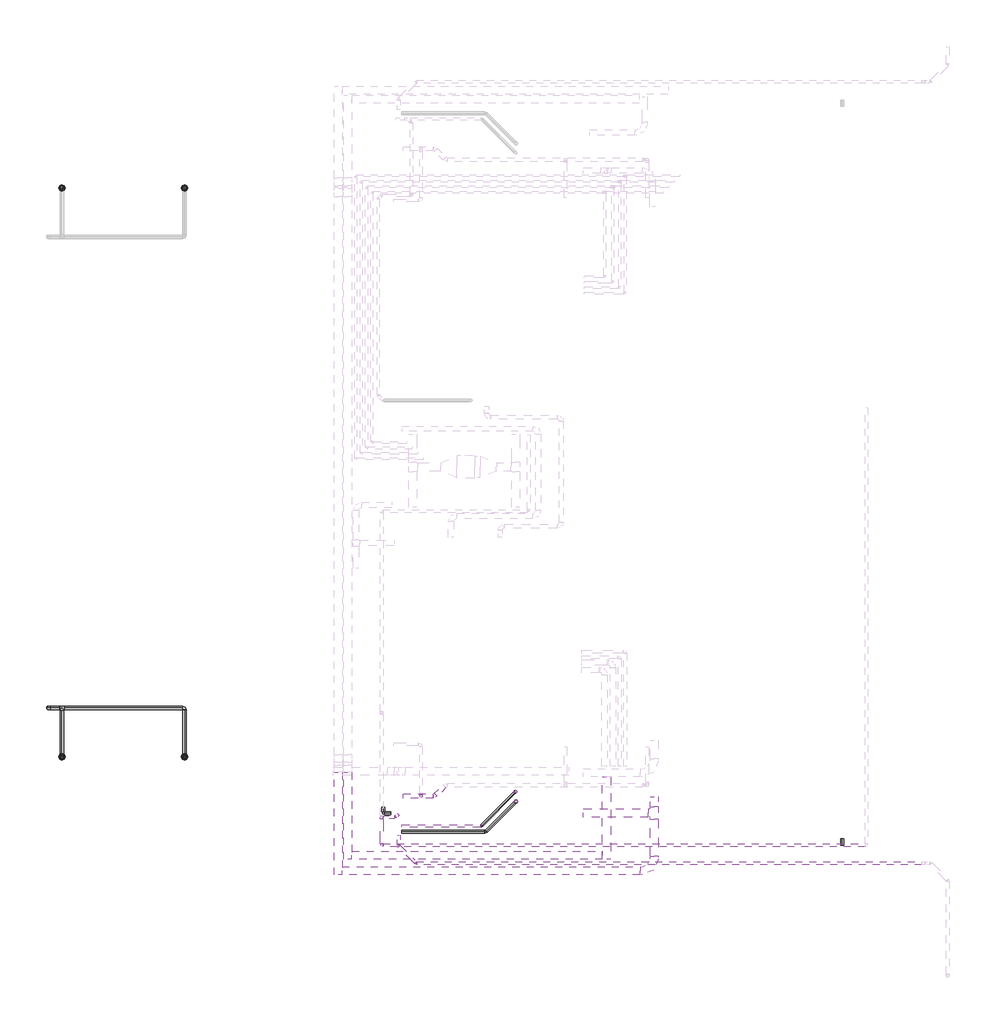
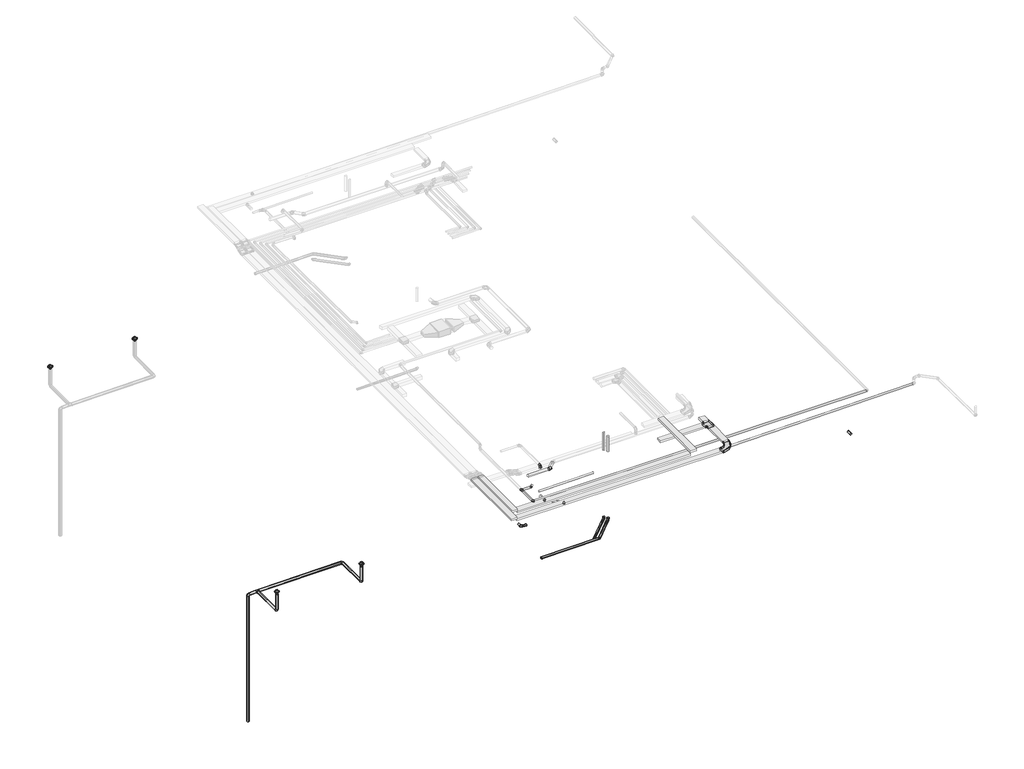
# One storey, part 1 of 5: 23 pipe segments, 17 pipe fittings, 8 cable carrier segments, 4 flow terminals, 3 duct segments, 2 cable carrier fittings, 2 duct fittings.
"""IFC4 building model written with IfcOpenShell, lengths in millimetres."""

from ifc_helpers import new_model, si_unit, point, frame, frame_2d, origin, place, context, project, spatial, polyline, circle_curve, trimmed, segment, composite_curve, outline, extrude, transform, mapped, element, save
from components import el_radio_300_mm_312ed4b1, m_codo_horizontal_de_canal_el_5b0e7b07, m_codo_redondo_ext_1_d_96ea52f9, m_codo_redondo_ext_1_d_5003ae0d, flow_terminal_39898e6f, flow_terminal_561f22d3, pipe_fitting_4aa6ec84, pipe_fitting_8e92d537, pipe_fitting_1b8f7a22, pipe_fitting_f4737d89, pipe_fitting_66147aa9, pipe_fitting_0b7fd5a4, pipe_fitting_aab77541, pipe_fitting_688cd524, pipe_fitting_d4e63a53, pipe_fitting_87aeffad, pipe_fitting_4a6b8cfe, pipe_fitting_2d09eb79

model = new_model("IFC4")

# Units and contexts
model_context = context("Model", 3, world=origin())
ifc_project = project(units=[si_unit("LENGTHUNIT", "METRE", prefix="MILLI")], contexts=[model_context])

# Site, building, storey
site = spatial("IfcSite", under=ifc_project)
building = spatial("IfcBuilding", under=site)
storey = spatial("IfcBuildingStorey", under=building, Name="Nivell 04 P04_PP", Elevation=22410.0)

# Cable carrier fittings
placement = place(None, origin())
el_radio_300_mm_shape = el_radio_300_mm_312ed4b1(model_context)
element("IfcCableCarrierFitting", 1, ObjectType="M_Te horizontal de canal : EL_Radio 300 mm", at=placement, inside=storey, context=model_context, shape_type="MappedRepresentation", body=[
    mapped(el_radio_300_mm_shape, transform((16614.6624278, -16993.7433657, 25574.0212739), x_axis=(0.0, -1.0, 0.0), y_axis=(1.0, 0.0, 0.0), z_axis=(0.0, 0.0, 1.0))),
])
m_codo_horizontal_de_canal_el_shape = m_codo_horizontal_de_canal_el_5b0e7b07(model_context)
element("IfcCableCarrierFitting", 2, ObjectType="M_Codo horizontal de canal : EL", at=placement, inside=storey, context=model_context, shape_type="MappedRepresentation", body=[
    mapped(m_codo_horizontal_de_canal_el_shape, transform((16614.6624278, -19116.2171768, 25574.0212739), x_axis=(1.0, 0.0, 0.0), y_axis=(0.0, 1.0, 0.0), z_axis=(0.0, 0.0, 1.0))),
])

# Cable carrier segments
element("IfcCableCarrierSegment", 3, ObjectType="EL", at=placement, inside=storey, context=model_context, shape_type="SweptSolid", body=[
    extrude(outline(polyline([(16464.6624278, -17219.7433657), (16764.6624278, -17219.7433657), (16764.6624278, -18591.2171768), (16464.6624278, -18591.2171768), (16464.6624278, -17219.7433657)])), frame((0.0, 0.0, 25524.0212739), z_axis=(0.0, 0.0, 1.0), x_axis=(1.0, 0.0, 0.0)), (0.0, 0.0, 1.0), 100.0),
])
element("IfcCableCarrierSegment", 4, ObjectType="EL", at=placement, inside=storey, context=model_context, shape_type="SweptSolid", body=[
    extrude(outline(polyline([(16089.6624278, -18966.2171768), (16089.6624278, -19266.2171768), (5158.2381883, -19266.2171768), (5158.2381883, -18966.2171768), (16089.6624278, -18966.2171768)])), frame((0.0, 0.0, 25524.0212739), z_axis=(0.0, 0.0, 1.0), x_axis=(1.0, 0.0, 0.0)), (0.0, 0.0, 1.0), 100.0),
])
element("IfcCableCarrierSegment", 5, ObjectType="EL", at=placement, inside=storey, context=model_context, shape_type="SweptSolid", body=[
    extrude(outline(polyline([(16464.6624278, -16393.7433657), (16764.6624278, -16393.7433657), (16764.6624278, -16767.7433657), (16464.6624278, -16767.7433657), (16464.6624278, -16393.7433657)])), frame((0.0, 0.0, 25524.0212739), z_axis=(0.0, 0.0, 1.0), x_axis=(1.0, 0.0, 0.0)), (0.0, 0.0, 1.0), 100.0),
])
element("IfcCableCarrierSegment", 6, ObjectType="EL", at=placement, inside=storey, context=model_context, shape_type="SweptSolid", body=[
    extrude(outline(polyline([(16388.6624278, -16843.7433657), (16388.6624278, -17143.7433657), (14011.0671065, -17143.7433657), (14011.0671065, -16843.7433657), (16388.6624278, -16843.7433657)])), frame((0.0, 0.0, 25524.0212739), z_axis=(0.0, 0.0, 1.0), x_axis=(1.0, 0.0, 0.0)), (0.0, 0.0, 1.0), 100.0),
])
element("IfcCableCarrierSegment", 7, ObjectType="EL", at=placement, inside=storey, context=model_context, shape_type="SweptSolid", body=[
    extrude(outline(polyline([(14707.0671065, -15671.1304394), (15007.0671065, -15671.1304394), (15007.0671065, -18700.3999814), (14707.0671065, -18700.3999814), (14707.0671065, -15671.1304394)])), frame((0.0, 0.0, 25660.0), z_axis=(0.0, 0.0, 1.0), x_axis=(1.0, 0.0, 0.0)), (0.0, 0.0, 1.0), 100.0),
])
element("IfcCableCarrierSegment", 8, ObjectType="EL", at=placement, inside=storey, context=model_context, shape_type="SweptSolid", body=[
    extrude(outline(polyline([(14707.0671065, -18400.3999814), (14707.0671065, -18700.3999814), (5507.0671065, -18700.3999814), (5507.0671065, -18400.3999814), (14707.0671065, -18400.3999814)])), frame((0.0, 0.0, 25491.5185208), z_axis=(0.0, 0.0, 1.0), x_axis=(1.0, 0.0, 0.0)), (0.0, 0.0, 1.0), 100.0),
])
element("IfcCableCarrierSegment", 9, ObjectType="EL", at=placement, inside=storey, context=model_context, shape_type="SweptSolid", body=[
    extrude(outline(polyline([(4858.2381883, -15500.01931), (5158.2381883, -15500.01931), (5158.2381883, -19266.2171768), (4858.2381883, -19266.2171768), (4858.2381883, -15500.01931)])), frame((0.0, 0.0, 25610.0), z_axis=(0.0, 0.0, 1.0), x_axis=(1.0, 0.0, 0.0)), (0.0, 0.0, 1.0), 100.0),
])
element("IfcCableCarrierSegment", 10, ObjectType="EL", at=placement, inside=storey, context=model_context, shape_type="SweptSolid", body=[
    extrude(outline(polyline([(5207.0671065, -15500.01931), (5507.0671065, -15500.01931), (5507.0671065, -18700.3999814), (5207.0671065, -18700.3999814), (5207.0671065, -15500.01931)])), frame((0.0, 0.0, 25610.0), z_axis=(0.0, 0.0, 1.0), x_axis=(1.0, 0.0, 0.0)), (0.0, 0.0, 1.0), 100.0),
])

# Duct fittings
m_codo_redondo_ext_1_d_shape = m_codo_redondo_ext_1_d_96ea52f9(model_context)
element("IfcDuctFitting", 11, ObjectType="M_Codo redondo : EXT_1 D", at=placement, inside=storey, context=model_context, shape_type="MappedRepresentation", body=[
    mapped(m_codo_redondo_ext_1_d_shape, transform((8050.5896993, -16369.0292533, 25860.0), x_axis=(0.0, -1.0, 0.0), y_axis=(0.0, 0.0, 1.0), z_axis=(-1.0, 0.0, 0.0))),
])
m_codo_redondo_ext_1_d_2_shape = m_codo_redondo_ext_1_d_5003ae0d(model_context)
element("IfcDuctFitting", 12, ObjectType="M_Codo redondo : EXT_1 D", at=placement, inside=storey, context=model_context, shape_type="MappedRepresentation", body=[
    mapped(m_codo_redondo_ext_1_d_2_shape, transform((8550.5886625, -16372.972987, 25515.0), x_axis=(-0.7071067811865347, -0.7071067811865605, 0.0), y_axis=(0.7071067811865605, -0.7071067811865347, 0.0), z_axis=(0.0, 0.0, 1.0))),
])

# Duct segments
element("IfcDuctSegment", 13, ObjectType="EXT_Acer Galvanitzat - Rígid", at=placement, inside=storey, context=model_context, shape_type="SweptSolid", body=[
    extrude(outline(composite_curve([segment(trimmed(circle_curve(frame_2d((8050.5896993, -16369.0292533)), 50.0), [point((8000.5896993, -16369.0292533))], [point((8050.5896993, -16319.0292533))], False, "CARTESIAN"), True, "CONTINUOUS"), segment(trimmed(circle_curve(frame_2d((8050.5896993, -16369.0292533)), 50.0), [point((8050.5896993, -16319.0292533))], [point((8100.5896993, -16369.0292533))], False, "CARTESIAN"), True, "CONTINUOUS"), segment(trimmed(circle_curve(frame_2d((8050.5896993, -16369.0292533)), 50.0), [point((8100.5896993, -16369.0292533))], [point((8050.5896993, -16419.0292533))], False, "CARTESIAN"), True, "CONTINUOUS"), segment(trimmed(circle_curve(frame_2d((8050.5896993, -16369.0292533)), 50.0), [point((8050.5896993, -16419.0292533))], [point((8000.5896993, -16369.0292533))], False, "CARTESIAN"), True, "CONTINUOUS")], self_intersect=False)), frame((0.0, 0.0, 25691.6), z_axis=(0.0, 0.0, 1.0), x_axis=(1.0, 0.0, 0.0)), (0.0, 0.0, 1.0), 68.4),
])
element("IfcDuctSegment", 14, ObjectType="EXT_Acer Galvanitzat - Rígid", at=placement, inside=storey, context=model_context, shape_type="SweptSolid", body=[
    extrude(outline(composite_curve([segment(trimmed(circle_curve(frame_2d((0.0, -75.0)), 75.0), [point((-75.0, -75.0))], [point((0.0, 0.0))], False, "CARTESIAN"), True, "CONTINUOUS"), segment(trimmed(circle_curve(frame_2d((0.0, -75.0)), 75.0), [point((0.0, 0.0))], [point((75.0, -75.0))], False, "CARTESIAN"), True, "CONTINUOUS"), segment(trimmed(circle_curve(frame_2d((0.0, -75.0)), 75.0), [point((75.0, -75.0))], [point((0.0, -150.0))], False, "CARTESIAN"), True, "CONTINUOUS"), segment(trimmed(circle_curve(frame_2d((0.0, -75.0)), 75.0), [point((0.0, -150.0))], [point((-75.0, -75.0))], False, "CARTESIAN"), True, "CONTINUOUS")], self_intersect=False)), frame((8594.5226453, -16329.0390042, 25440.0), z_axis=(0.7071067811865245, 0.7071067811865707, 0.0), x_axis=(0.7071067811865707, -0.7071067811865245, 0.0)), (0.0, 0.0, 1.0), 441.4228225),
])
element("IfcDuctSegment", 15, ObjectType="EXT_Acer Galvanitzat - Rígid", at=placement, inside=storey, context=model_context, shape_type="SweptSolid", body=[
    extrude(outline(composite_curve([segment(trimmed(circle_curve(frame_2d((-16372.972987, 25515.0)), 75.0), [point((-16297.972987, 25515.0))], [point((-16372.972987, 25440.0))], False, "CARTESIAN"), True, "CONTINUOUS"), segment(trimmed(circle_curve(frame_2d((-16372.972987, 25515.0)), 75.0), [point((-16372.972987, 25440.0))], [point((-16447.972987, 25515.0))], False, "CARTESIAN"), True, "CONTINUOUS"), segment(trimmed(circle_curve(frame_2d((-16372.972987, 25515.0)), 75.0), [point((-16447.972987, 25515.0))], [point((-16372.972987, 25590.0))], False, "CARTESIAN"), True, "CONTINUOUS"), segment(trimmed(circle_curve(frame_2d((-16372.972987, 25515.0)), 75.0), [point((-16372.972987, 25590.0))], [point((-16297.972987, 25515.0))], False, "CARTESIAN"), True, "CONTINUOUS")], self_intersect=False)), frame((7390.5886625, 0.0, 0.0), z_axis=(1.0, 0.0, 0.0), x_axis=(0.0, 1.0, 0.0)), (0.0, 0.0, 1.0), 1097.8679656),
])

# Flow terminals
flow_terminal_shape = flow_terminal_39898e6f(model_context)
element("IfcFlowTerminal", 16, ObjectType="ARC_PF_desaigua coberta : Diámetro salida 70mm", at=placement, inside=storey, context=model_context, shape_type="MappedRepresentation", body=[
    mapped(flow_terminal_shape, transform((-5135.1220364, 5951.8267074, 22408.0), x_axis=(1.0, 0.0, 0.0), y_axis=(0.0, 1.0, 0.0), z_axis=(0.0, 0.0, 1.0))),
])
element("IfcFlowTerminal", 17, ObjectType="ARC_PF_desaigua coberta : Diámetro salida 70mm", at=placement, inside=storey, context=model_context, shape_type="MappedRepresentation", body=[
    mapped(flow_terminal_shape, transform((-635.5719914, 5951.8267074, 22408.0), x_axis=(1.0, 0.0, 0.0), y_axis=(0.0, 1.0, 0.0), z_axis=(0.0, 0.0, 1.0))),
])
flow_terminal_2_shape = flow_terminal_561f22d3(model_context)
element("IfcFlowTerminal", 18, ObjectType="ARC_PF_desaigua coberta : Diámetro salida 70mm", at=placement, inside=storey, context=model_context, shape_type="MappedRepresentation", body=[
    mapped(flow_terminal_2_shape, transform((-5135.1220364, -14932.5786875, 22408.0), x_axis=(1.0, 0.0, 0.0), y_axis=(0.0, 1.0, 0.0), z_axis=(0.0, 0.0, 1.0))),
])
element("IfcFlowTerminal", 19, ObjectType="ARC_PF_desaigua coberta : Diámetro salida 70mm", at=placement, inside=storey, context=model_context, shape_type="MappedRepresentation", body=[
    mapped(flow_terminal_2_shape, transform((-635.5719914, -14932.5786875, 22408.0), x_axis=(1.0, 0.0, 0.0), y_axis=(0.0, 1.0, 0.0), z_axis=(0.0, 0.0, 1.0))),
])

# Pipe fittings
pipe_fitting_shape = pipe_fitting_4aa6ec84(model_context)
element("IfcPipeFitting", 20, ObjectType="M_Transición - Genérica : Estándar", at=placement, inside=storey, context=model_context, shape_type="MappedRepresentation", body=[
    mapped(pipe_fitting_shape, transform((-5135.1220364, -14932.5786875, 22408.0), x_axis=(0.0, 0.0, -1.0), y_axis=(1.0, 0.0, 0.0), z_axis=(0.0, -1.0, 0.0))),
])
element("IfcPipeFitting", 21, ObjectType="M_Transición - Genérica : Estándar", at=placement, inside=storey, context=model_context, shape_type="MappedRepresentation", body=[
    mapped(pipe_fitting_shape, transform((-635.5719914, -14932.5786875, 22408.0), x_axis=(0.0, 0.0, -1.0), y_axis=(1.0, 0.0, 0.0), z_axis=(0.0, -1.0, 0.0))),
])
pipe_fitting_2_shape = pipe_fitting_8e92d537(model_context)
element("IfcPipeFitting", 22, ObjectType="M_Codo - Genérico : Estándar", at=placement, inside=storey, context=model_context, shape_type="MappedRepresentation", body=[
    mapped(pipe_fitting_2_shape, transform((-5635.5719914, -13136.5782875, 21442.039996), x_axis=(-0.9999500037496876, 0.0, -0.009999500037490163), y_axis=(0.009999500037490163, 0.0, -0.9999500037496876), z_axis=(0.0, -1.0, 0.0))),
])
pipe_fitting_3_shape = pipe_fitting_1b8f7a22(model_context)
element("IfcPipeFitting", 23, ObjectType="M_Codo - Genérico : Estándar", at=placement, inside=storey, context=model_context, shape_type="MappedRepresentation", body=[
    mapped(pipe_fitting_3_shape, transform((-5135.1220364, -14932.5786875, 21465.0044996), x_axis=(0.0, 0.0, -1.0), y_axis=(0.0, -1.0, 0.0), z_axis=(-1.0, 0.0, 0.0))),
])
element("IfcPipeFitting", 24, ObjectType="M_Codo - Genérico : Estándar", at=placement, inside=storey, context=model_context, shape_type="MappedRepresentation", body=[
    mapped(pipe_fitting_3_shape, transform((-635.5719914, -14932.5786875, 21510.0), x_axis=(0.0, 0.0, -1.0), y_axis=(0.0, -1.0, 0.0), z_axis=(-1.0, 0.0, 0.0))),
])
pipe_fitting_4_shape = pipe_fitting_f4737d89(model_context)
element("IfcPipeFitting", 25, ObjectType="M_Codo - Genérico : Estándar", at=placement, inside=storey, context=model_context, shape_type="MappedRepresentation", body=[
    mapped(pipe_fitting_4_shape, transform((-635.5719914, -13136.5782875, 21492.039996), x_axis=(0.9999500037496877, 0.0, 0.009999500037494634), y_axis=(9.998500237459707e-05, 0.999950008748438, -0.00999850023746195), z_axis=(-0.009999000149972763, 0.00999900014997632, 0.9999000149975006))),
])
pipe_fitting_5_shape = pipe_fitting_66147aa9(model_context)
element("IfcPipeFitting", 26, ObjectType="M_Te - Genérica : Estándar", at=placement, inside=storey, context=model_context, shape_type="MappedRepresentation", body=[
    mapped(pipe_fitting_5_shape, transform((-5135.1220364, -13136.5782875, 21447.0444956), x_axis=(0.9999500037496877, 0.0, 0.009999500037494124), y_axis=(-9.998500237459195e-05, -0.999950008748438, 0.00999850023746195), z_axis=(0.009999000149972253, -0.00999900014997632, -0.9999000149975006))),
])
pipe_fitting_6_shape = pipe_fitting_0b7fd5a4(model_context)
element("IfcPipeFitting", 27, ObjectType="M_Codo - Genérico : Estándar", at=placement, inside=storey, context=model_context, shape_type="MappedRepresentation", body=[
    mapped(pipe_fitting_6_shape, transform((10418.5757792, -17686.9795368, 21744.2175715), x_axis=(0.9999500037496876, 0.0, 0.009999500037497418), y_axis=(-4.141685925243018e-05, 0.9999914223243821, 0.004141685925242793), z_axis=(-0.009999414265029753, -0.004141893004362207, 0.9999414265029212))),
])
element("IfcPipeFitting", 28, ObjectType="M_Codo - Genérico : Estándar", at=placement, inside=storey, context=model_context, shape_type="MappedRepresentation", body=[
    mapped(pipe_fitting_6_shape, transform((7870.0068596, -18840.3956727, 25326.0671248), x_axis=(0.7070714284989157, -0.7070714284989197, 0.009999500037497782), y_axis=(0.7070714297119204, 0.7071300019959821, 0.004141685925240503), z_axis=(-0.009999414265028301, 0.004141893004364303, 0.9999414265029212))),
])
element("IfcPipeFitting", 29, ObjectType="M_Codo - Genérico : Estándar", at=placement, inside=storey, context=model_context, shape_type="MappedRepresentation", body=[
    mapped(pipe_fitting_6_shape, transform((7222.8096734, -18193.1973994, 25316.9143667), x_axis=(0.0, -0.9999500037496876, 0.009999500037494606), y_axis=(0.9999914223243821, 4.141685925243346e-05, 0.004141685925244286), z_axis=(-0.004141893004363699, 0.009999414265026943, 0.9999414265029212))),
])
pipe_fitting_7_shape = pipe_fitting_aab77541(model_context)
element("IfcPipeFitting", 30, ObjectType="M_Codo - Genérico : Estándar", at=placement, inside=storey, context=model_context, shape_type="MappedRepresentation", body=[
    mapped(pipe_fitting_7_shape, transform((11534.5619983, -16570.9933177, 21760.0), x_axis=(0.7070714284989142, 0.7070714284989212, 0.00999950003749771), y_axis=(-0.007070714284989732, -0.007070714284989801, 0.9999500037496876), z_axis=(0.707106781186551, -0.707106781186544, 0.0))),
])
pipe_fitting_8_shape = pipe_fitting_688cd524(model_context)
element("IfcPipeFitting", 31, ObjectType="M_Codo - Genérico : Estándar", at=placement, inside=storey, context=model_context, shape_type="MappedRepresentation", body=[
    mapped(pipe_fitting_8_shape, transform((11520.8342792, -16208.2069022, 21619.1205236), x_axis=(0.7070714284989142, 0.7070714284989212, 0.00999950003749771), y_axis=(-0.007070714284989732, -0.007070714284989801, 0.9999500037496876), z_axis=(0.707106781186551, -0.707106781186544, 0.0))),
])
pipe_fitting_9_shape = pipe_fitting_d4e63a53(model_context)
element("IfcPipeFitting", 32, ObjectType="M_Codo - Genérico : Estándar", at=placement, inside=storey, context=model_context, shape_type="MappedRepresentation", body=[
    mapped(pipe_fitting_9_shape, transform((10258.5698208, -17470.4705374, 21601.2694142), x_axis=(0.9999500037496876, 0.0, 0.009999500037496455), y_axis=(-4.141528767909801e-05, 0.9999914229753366, 0.0041415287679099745), z_axis=(-0.00999941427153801, -0.004141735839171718, 0.9999414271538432))),
])
pipe_fitting_10_shape = pipe_fitting_87aeffad(model_context)
element("IfcPipeFitting", 33, ObjectType="M_Codo - Genérico : Estándar", at=placement, inside=storey, context=model_context, shape_type="MappedRepresentation", body=[
    mapped(pipe_fitting_10_shape, transform((6656.4795907, -17006.4845942, 23310.0), x_axis=(0.0, -1.0, 0.0), y_axis=(1.0, 0.0, 0.0), z_axis=(0.0, 0.0, 1.0))),
])
element("IfcPipeFitting", 34, ObjectType="M_Codo - Genérico : Estándar", at=placement, inside=storey, context=model_context, shape_type="MappedRepresentation", body=[
    mapped(pipe_fitting_10_shape, transform((6603.8941113, -18181.6106458, 25459.2), x_axis=(0.0, -1.0, 0.0), y_axis=(1.0, 0.0, 0.0), z_axis=(0.0, 0.0, 1.0))),
])
pipe_fitting_11_shape = pipe_fitting_4a6b8cfe(model_context)
element("IfcPipeFitting", 35, ObjectType="M_Codo - Genérico : Estándar", at=placement, inside=storey, context=model_context, shape_type="MappedRepresentation", body=[
    mapped(pipe_fitting_11_shape, transform((7103.8941113, -17152.8731458, 25459.2), x_axis=(1.0, 0.0, 0.0), y_axis=(0.0, 1.0, 0.0), z_axis=(0.0, 0.0, 1.0))),
])
pipe_fitting_12_shape = pipe_fitting_2d09eb79(model_context)
element("IfcPipeFitting", 36, ObjectType="M_Te - Genérica : Estándar", at=placement, inside=storey, context=model_context, shape_type="MappedRepresentation", body=[
    mapped(pipe_fitting_12_shape, transform((6603.8941113, -17152.8731458, 25459.2), x_axis=(0.0, -1.0, 0.0), y_axis=(-1.0, 0.0, 0.0), z_axis=(0.0, 0.0, -1.0))),
])

# Pipe segments
element("IfcPipeSegment", 37, ObjectType="PVC_Baixant", at=placement, inside=storey, context=model_context, shape_type="SweptSolid", body=[
    extrude(outline(composite_curve([segment(trimmed(circle_curve(frame_2d((0.0, -62.5)), 62.5), [point((62.5, -62.5))], [point((0.0, -125.0))], False, "CARTESIAN"), True, "CONTINUOUS"), segment(trimmed(circle_curve(frame_2d((0.0, -62.5)), 62.5), [point((0.0, -125.0))], [point((-62.5, -62.5))], False, "CARTESIAN"), True, "CONTINUOUS"), segment(trimmed(circle_curve(frame_2d((0.0, -62.5)), 62.5), [point((-62.5, -62.5))], [point((0.0, 0.0))], False, "CARTESIAN"), True, "CONTINUOUS"), segment(trimmed(circle_curve(frame_2d((0.0, -62.5)), 62.5), [point((0.0, 0.0))], [point((62.5, -62.5))], False, "CARTESIAN"), True, "CONTINUOUS")], self_intersect=False)), frame((-5135.1220364, -13213.7369297, 21510.3192069), z_axis=(0.0, -0.9999500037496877, 0.009999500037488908), x_axis=(1.0, 0.0, 0.0)), (0.0, 0.0, 1.0), 1647.5760009),
])
element("IfcPipeSegment", 38, ObjectType="PVC_Baixant", at=placement, inside=storey, context=model_context, shape_type="SweptSolid", body=[
    extrude(outline(composite_curve([segment(trimmed(circle_curve(frame_2d((-5135.1220364, -14932.5786875)), 62.5), [point((-5072.6220364, -14932.5786875))], [point((-5135.1220364, -14995.0786875))], False, "CARTESIAN"), True, "CONTINUOUS"), segment(trimmed(circle_curve(frame_2d((-5135.1220364, -14932.5786875)), 62.5), [point((-5135.1220364, -14995.0786875))], [point((-5197.6220364, -14932.5786875))], False, "CARTESIAN"), True, "CONTINUOUS"), segment(trimmed(circle_curve(frame_2d((-5135.1220364, -14932.5786875)), 62.5), [point((-5197.6220364, -14932.5786875))], [point((-5135.1220364, -14870.0786875))], False, "CARTESIAN"), True, "CONTINUOUS"), segment(trimmed(circle_curve(frame_2d((-5135.1220364, -14932.5786875)), 62.5), [point((-5135.1220364, -14870.0786875))], [point((-5072.6220364, -14932.5786875))], False, "CARTESIAN"), True, "CONTINUOUS")], self_intersect=False)), frame((0.0, 0.0, 21535.7311963), z_axis=(0.0, 0.0, 1.0), x_axis=(1.0, 0.0, 0.0)), (0.0, 0.0, 1.0), 839.7250537),
])
element("IfcPipeSegment", 39, ObjectType="PVC_Baixant", at=placement, inside=storey, context=model_context, shape_type="SweptSolid", body=[
    extrude(outline(composite_curve([segment(trimmed(circle_curve(frame_2d((0.0, -62.5)), 62.5), [point((0.0, 0.0))], [point((62.5, -62.5))], False, "CARTESIAN"), True, "CONTINUOUS"), segment(trimmed(circle_curve(frame_2d((0.0, -62.5)), 62.5), [point((62.5, -62.5))], [point((0.0, -125.0))], False, "CARTESIAN"), True, "CONTINUOUS"), segment(trimmed(circle_curve(frame_2d((0.0, -62.5)), 62.5), [point((0.0, -125.0))], [point((-62.5, -62.5))], False, "CARTESIAN"), True, "CONTINUOUS"), segment(trimmed(circle_curve(frame_2d((0.0, -62.5)), 62.5), [point((-62.5, -62.5))], [point((0.0, 0.0))], False, "CARTESIAN"), True, "CONTINUOUS")], self_intersect=False)), frame((-5564.8488307, -13074.0782875, 21442.7472276), z_axis=(0.9999500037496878, 0.0, 0.00999950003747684), x_axis=(0.00999950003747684, 0.0, -0.9999500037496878)), (0.0, 0.0, 1.0), 351.9607801),
])
element("IfcPipeSegment", 40, ObjectType="PVC_Baixant", at=placement, inside=storey, context=model_context, shape_type="SweptSolid", body=[
    extrude(outline(composite_curve([segment(trimmed(circle_curve(frame_2d((-5635.5719914, -13136.5782875)), 62.5), [point((-5698.0719914, -13136.5782875))], [point((-5635.5719914, -13074.0782875))], False, "CARTESIAN"), True, "CONTINUOUS"), segment(trimmed(circle_curve(frame_2d((-5635.5719914, -13136.5782875)), 62.5), [point((-5635.5719914, -13074.0782875))], [point((-5573.0719914, -13136.5782875))], False, "CARTESIAN"), True, "CONTINUOUS"), segment(trimmed(circle_curve(frame_2d((-5635.5719914, -13136.5782875)), 62.5), [point((-5573.0719914, -13136.5782875))], [point((-5635.5719914, -13199.0782875))], False, "CARTESIAN"), True, "CONTINUOUS"), segment(trimmed(circle_curve(frame_2d((-5635.5719914, -13136.5782875)), 62.5), [point((-5635.5719914, -13199.0782875))], [point((-5698.0719914, -13136.5782875))], False, "CARTESIAN"), True, "CONTINUOUS")], self_intersect=False)), frame((0.0, 0.0, 14323.8570492), z_axis=(0.0, 0.0, 1.0), x_axis=(1.0, 0.0, 0.0)), (0.0, 0.0, 1.0), 7047.45625),
])
element("IfcPipeSegment", 41, ObjectType="PVC_Baixant", at=placement, inside=storey, context=model_context, shape_type="SweptSolid", body=[
    extrude(outline(composite_curve([segment(trimmed(circle_curve(frame_2d((0.0, -62.5)), 62.5), [point((62.5, -62.5))], [point((0.0, -125.0))], False, "CARTESIAN"), True, "CONTINUOUS"), segment(trimmed(circle_curve(frame_2d((0.0, -62.5)), 62.5), [point((0.0, -125.0))], [point((-62.5, -62.5))], False, "CARTESIAN"), True, "CONTINUOUS"), segment(trimmed(circle_curve(frame_2d((0.0, -62.5)), 62.5), [point((-62.5, -62.5))], [point((0.0, 0.0))], False, "CARTESIAN"), True, "CONTINUOUS"), segment(trimmed(circle_curve(frame_2d((0.0, -62.5)), 62.5), [point((0.0, 0.0))], [point((62.5, -62.5))], False, "CARTESIAN"), True, "CONTINUOUS")], self_intersect=False)), frame((-635.5719914, -13207.3801048, 21555.2511391), z_axis=(0.0, -0.9999500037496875, 0.00999950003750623), x_axis=(1.0, 0.0, 0.0)), (0.0, 0.0, 1.0), 1653.9331436),
])
element("IfcPipeSegment", 42, ObjectType="PVC_Baixant", at=placement, inside=storey, context=model_context, shape_type="SweptSolid", body=[
    extrude(outline(composite_curve([segment(trimmed(circle_curve(frame_2d((-635.5719914, -14932.5786875)), 62.5), [point((-573.0719914, -14932.5786875))], [point((-635.5719914, -14995.0786875))], False, "CARTESIAN"), True, "CONTINUOUS"), segment(trimmed(circle_curve(frame_2d((-635.5719914, -14932.5786875)), 62.5), [point((-635.5719914, -14995.0786875))], [point((-698.0719914, -14932.5786875))], False, "CARTESIAN"), True, "CONTINUOUS"), segment(trimmed(circle_curve(frame_2d((-635.5719914, -14932.5786875)), 62.5), [point((-698.0719914, -14932.5786875))], [point((-635.5719914, -14870.0786875))], False, "CARTESIAN"), True, "CONTINUOUS"), segment(trimmed(circle_curve(frame_2d((-635.5719914, -14932.5786875)), 62.5), [point((-635.5719914, -14870.0786875))], [point((-573.0719914, -14932.5786875))], False, "CARTESIAN"), True, "CONTINUOUS")], self_intersect=False)), frame((0.0, 0.0, 21580.7266968), z_axis=(0.0, 0.0, 1.0), x_axis=(1.0, 0.0, 0.0)), (0.0, 0.0, 1.0), 794.7295532),
])
element("IfcPipeSegment", 43, ObjectType="PVC_Baixant", at=placement, inside=storey, context=model_context, shape_type="SweptSolid", body=[
    extrude(outline(composite_curve([segment(trimmed(circle_curve(frame_2d((0.0, -62.5)), 62.5), [point((0.0, 0.0))], [point((62.5000001, -62.5))], False, "CARTESIAN"), True, "CONTINUOUS"), segment(trimmed(circle_curve(frame_2d((0.0, -62.5)), 62.5), [point((62.5000001, -62.5))], [point((0.0, -125.0))], False, "CARTESIAN"), True, "CONTINUOUS"), segment(trimmed(circle_curve(frame_2d((0.0, -62.5)), 62.5), [point((0.0, -125.0))], [point((-62.5, -62.5))], False, "CARTESIAN"), True, "CONTINUOUS"), segment(trimmed(circle_curve(frame_2d((0.0, -62.5)), 62.5), [point((-62.5, -62.5))], [point((0.0, 0.0))], False, "CARTESIAN"), True, "CONTINUOUS")], self_intersect=False)), frame((-5057.3384255, -13074.0782875, 21447.8223317), z_axis=(0.9999500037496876, 0.0, 0.009999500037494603), x_axis=(0.009999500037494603, 0.0, -0.9999500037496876)), (0.0, 0.0, 1.0), 4350.5571596),
])
element("IfcPipeSegment", 44, ObjectType="PVC_Baixant", at=placement, inside=storey, context=model_context, shape_type="SweptSolid", body=[
    extrude(outline(composite_curve([segment(trimmed(circle_curve(frame_2d((0.0, -55.0)), 55.0), [point((-54.9972505, -54.450055))], [point((0.549945, -0.0027495))], False, "CARTESIAN"), True, "CONTINUOUS"), segment(trimmed(circle_curve(frame_2d((0.0, -55.0)), 55.0), [point((0.549945, -0.0027495))], [point((54.9972505, -55.549945))], False, "CARTESIAN"), True, "CONTINUOUS"), segment(trimmed(circle_curve(frame_2d((0.0, -55.0)), 55.0), [point((54.9972505, -55.549945))], [point((-0.549945, -109.9972505))], False, "CARTESIAN"), True, "CONTINUOUS"), segment(trimmed(circle_curve(frame_2d((0.0, -55.0)), 55.0), [point((-0.549945, -109.9972505))], [point((-54.9972505, -54.450055))], False, "CARTESIAN"), True, "CONTINUOUS")], self_intersect=False)), frame((10437.0077448, -17667.7698315, 21689.4837381), z_axis=(0.7070714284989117, 0.7070714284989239, 0.009999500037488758), x_axis=(0.70714213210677, -0.7070007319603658, -0.009998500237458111)), (0.0, 0.0, 1.0), 1489.9424458),
])
element("IfcPipeSegment", 45, ObjectType="PVC_Baixant", at=placement, inside=storey, context=model_context, shape_type="SweptSolid", body=[
    extrude(outline(composite_curve([segment(trimmed(circle_curve(frame_2d((0.0, -55.0)), 55.0), [point((0.0, 0.0))], [point((55.0, -55.0))], False, "CARTESIAN"), True, "CONTINUOUS"), segment(trimmed(circle_curve(frame_2d((0.0, -55.0)), 55.0), [point((55.0, -55.0))], [point((0.0, -110.0))], False, "CARTESIAN"), True, "CONTINUOUS"), segment(trimmed(circle_curve(frame_2d((0.0, -55.0)), 55.0), [point((0.0, -110.0))], [point((-55.0, -55.0))], False, "CARTESIAN"), True, "CONTINUOUS"), segment(trimmed(circle_curve(frame_2d((0.0, -55.0)), 55.0), [point((-55.0, -55.0))], [point((0.0, 0.0))], False, "CARTESIAN"), True, "CONTINUOUS")], self_intersect=False)), frame((7340.3329326, -17631.9795368, 21713.4351431), z_axis=(0.9999500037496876, 0.0, 0.009999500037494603), x_axis=(0.009999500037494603, 0.0, -0.9999500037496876)), (0.0, 0.0, 1.0), 3052.3287157),
])
element("IfcPipeSegment", 46, ObjectType="PVC_Baixant", at=placement, inside=storey, context=model_context, shape_type="SweptSolid", body=[
    extrude(outline(composite_curve([segment(trimmed(circle_curve(frame_2d((0.0, -45.0)), 45.0), [point((-44.9977504, -44.550045))], [point((0.449955, -0.0022496))], False, "CARTESIAN"), True, "CONTINUOUS"), segment(trimmed(circle_curve(frame_2d((0.0, -45.0)), 45.0), [point((0.449955, -0.0022496))], [point((44.9977503, -45.449955))], False, "CARTESIAN"), True, "CONTINUOUS"), segment(trimmed(circle_curve(frame_2d((0.0, -45.0)), 45.0), [point((44.9977503, -45.449955))], [point((-0.4499551, -89.9977503))], False, "CARTESIAN"), True, "CONTINUOUS"), segment(trimmed(circle_curve(frame_2d((0.0, -45.0)), 45.0), [point((-0.4499551, -89.9977503))], [point((-44.9977504, -44.550045))], False, "CARTESIAN"), True, "CONTINUOUS")], self_intersect=False)), frame((10273.911928, -17454.492921, 21556.4908779), z_axis=(0.7070714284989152, 0.7070714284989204, 0.009999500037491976), x_axis=(0.7071421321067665, -0.7070007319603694, -0.009998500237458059)), (0.0, 0.0, 1.0), 1711.6364246),
])
element("IfcPipeSegment", 47, ObjectType="PVC_Baixant", at=placement, inside=storey, context=model_context, shape_type="SweptSolid", body=[
    extrude(outline(composite_curve([segment(trimmed(circle_curve(frame_2d((11534.5619983, -16570.9933177)), 55.0), [point((11479.5619983, -16570.9933177))], [point((11534.5619983, -16515.9933177))], False, "CARTESIAN"), True, "CONTINUOUS"), segment(trimmed(circle_curve(frame_2d((11534.5619983, -16570.9933177)), 55.0), [point((11534.5619983, -16515.9933177))], [point((11589.5619983, -16570.9933177))], False, "CARTESIAN"), True, "CONTINUOUS"), segment(trimmed(circle_curve(frame_2d((11534.5619983, -16570.9933177)), 55.0), [point((11589.5619983, -16570.9933177))], [point((11534.5619983, -16625.9933177))], False, "CARTESIAN"), True, "CONTINUOUS"), segment(trimmed(circle_curve(frame_2d((11534.5619983, -16570.9933177)), 55.0), [point((11534.5619983, -16625.9933177))], [point((11479.5619983, -16570.9933177))], False, "CARTESIAN"), True, "CONTINUOUS")], self_intersect=False)), frame((0.0, 0.0, 25572.3112718), z_axis=(0.0, 0.0, 1.0), x_axis=(1.0, 0.0, 0.0)), (0.0, 0.0, 1.0), 837.6887282),
])
element("IfcPipeSegment", 48, ObjectType="PVC_Baixant", at=placement, inside=storey, context=model_context, shape_type="SweptSolid", body=[
    extrude(outline(composite_curve([segment(trimmed(circle_curve(frame_2d((0.0, 45.0)), 45.0), [point((-45.0, 45.0))], [point((0.0, 90.0))], False, "CARTESIAN"), True, "CONTINUOUS"), segment(trimmed(circle_curve(frame_2d((0.0, 45.0)), 45.0), [point((0.0, 90.0))], [point((45.0, 45.0))], False, "CARTESIAN"), True, "CONTINUOUS"), segment(trimmed(circle_curve(frame_2d((0.0, 45.0)), 45.0), [point((45.0, 45.0))], [point((0.0, 0.0))], False, "CARTESIAN"), True, "CONTINUOUS"), segment(trimmed(circle_curve(frame_2d((0.0, 45.0)), 45.0), [point((0.0, 0.0))], [point((-45.0, 45.0))], False, "CARTESIAN"), True, "CONTINUOUS")], self_intersect=False)), frame((11520.8342792, -16253.2069022, 25420.9866789), z_axis=(2.535683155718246e-05, -1.9776222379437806e-06, 0.9999999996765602), x_axis=(0.9999999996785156, 5.01430008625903e-11, -2.535683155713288e-05)), (0.0, 0.0, 1.0), 989.013222),
])
element("IfcPipeSegment", 49, ObjectType="PVC_Baixant", at=placement, inside=storey, context=model_context, shape_type="SweptSolid", body=[
    extrude(outline(composite_curve([segment(trimmed(circle_curve(frame_2d((0.0, -45.0)), 45.0), [point((0.0, 0.0))], [point((44.9999999, -45.0))], False, "CARTESIAN"), True, "CONTINUOUS"), segment(trimmed(circle_curve(frame_2d((0.0, -45.0)), 45.0), [point((44.9999999, -45.0))], [point((0.0, -90.0))], False, "CARTESIAN"), True, "CONTINUOUS"), segment(trimmed(circle_curve(frame_2d((0.0, -45.0)), 45.0), [point((0.0, -90.0))], [point((-45.0, -45.0))], False, "CARTESIAN"), True, "CONTINUOUS"), segment(trimmed(circle_curve(frame_2d((0.0, -45.0)), 45.0), [point((-45.0, -45.0))], [point((0.0, 0.0))], False, "CARTESIAN"), True, "CONTINUOUS")], self_intersect=False)), frame((7341.7462723, -17425.4705374, 25322.1011787), z_axis=(0.9999500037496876, 0.0, 0.009999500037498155), x_axis=(0.009999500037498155, 0.0, -0.9999500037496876)), (0.0, 0.0, 1.0), 2895.2718674),
])
element("IfcPipeSegment", 50, ObjectType="PVC_Baixant", at=placement, inside=storey, context=model_context, shape_type="SweptSolid", body=[
    extrude(outline(composite_curve([segment(trimmed(circle_curve(frame_2d((0.0, -55.0)), 55.0), [point((0.0, 0.0))], [point((55.0, -55.0))], False, "CARTESIAN"), True, "CONTINUOUS"), segment(trimmed(circle_curve(frame_2d((0.0, -55.0)), 55.0), [point((55.0, -55.0))], [point((0.0, -110.0))], False, "CARTESIAN"), True, "CONTINUOUS"), segment(trimmed(circle_curve(frame_2d((0.0, -55.0)), 55.0), [point((0.0, -110.0))], [point((-55.0, -55.0))], False, "CARTESIAN"), True, "CONTINUOUS"), segment(trimmed(circle_curve(frame_2d((0.0, -55.0)), 55.0), [point((-55.0, -55.0))], [point((0.0, 0.0))], False, "CARTESIAN"), True, "CONTINUOUS")], self_intersect=False)), frame((7896.0735954, -18785.3956727, 25326.3277921), z_axis=(0.9999500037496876, 0.0, 0.009999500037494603), x_axis=(0.009999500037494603, 0.0, -0.9999500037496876)), (0.0, 0.0, 1.0), 18530.0950724),
])
element("IfcPipeSegment", 51, ObjectType="PVC_Baixant", at=placement, inside=storey, context=model_context, shape_type="SweptSolid", body=[
    extrude(outline(composite_curve([segment(trimmed(circle_curve(frame_2d((0.0, -55.0)), 55.0), [point((54.9972505, -54.4500559))], [point((0.549944, -109.9972506))], False, "CARTESIAN"), True, "CONTINUOUS"), segment(trimmed(circle_curve(frame_2d((0.0, -55.0)), 55.0), [point((0.549944, -109.9972506))], [point((-54.9972505, -55.549944))], False, "CARTESIAN"), True, "CONTINUOUS"), segment(trimmed(circle_curve(frame_2d((0.0, -55.0)), 55.0), [point((-54.9972505, -55.549944))], [point((-0.5499441, -0.0027495))], False, "CARTESIAN"), True, "CONTINUOUS"), segment(trimmed(circle_curve(frame_2d((0.0, -55.0)), 55.0), [point((-0.5499441, -0.0027495))], [point((54.9972505, -54.4500559))], False, "CARTESIAN"), True, "CONTINUOUS")], self_intersect=False)), frame((7241.2416391, -18210.851626, 25372.1695349), z_axis=(0.7070707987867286, -0.707072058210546, 0.009999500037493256), x_axis=(0.7071427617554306, 0.707000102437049, -0.009998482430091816)), (0.0, 0.0, 1.0), 863.1854914),
])
element("IfcPipeSegment", 52, ObjectType="PVC_Baixant", at=placement, inside=storey, context=model_context, shape_type="SweptSolid", body=[
    extrude(outline(composite_curve([segment(trimmed(circle_curve(frame_2d((0.0, -55.0000001)), 55.0), [point((55.0, -55.0000001))], [point((0.0, -110.0000001))], False, "CARTESIAN"), True, "CONTINUOUS"), segment(trimmed(circle_curve(frame_2d((0.0, -55.0000001)), 55.0), [point((0.0, -110.0000001))], [point((-55.0, -55.0000001))], False, "CARTESIAN"), True, "CONTINUOUS"), segment(trimmed(circle_curve(frame_2d((0.0, -55.0000001)), 55.0), [point((-55.0, -55.0000001))], [point((0.0, 0.0))], False, "CARTESIAN"), True, "CONTINUOUS"), segment(trimmed(circle_curve(frame_2d((0.0, -55.0000001)), 55.0), [point((0.0, 0.0))], [point((55.0, -55.0000001))], False, "CARTESIAN"), True, "CONTINUOUS")], self_intersect=False)), frame((7222.8096734, -17804.808102, 25368.0332237), z_axis=(0.0, -0.999950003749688, 0.009999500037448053), x_axis=(1.0, 0.0, 0.0)), (0.0, 0.0, 1.0), 361.7906773),
])
element("IfcPipeSegment", 53, ObjectType="AN_CI", at=placement, inside=storey, context=model_context, shape_type="SweptSolid", body=[
    extrude(outline(composite_curve([segment(trimmed(circle_curve(frame_2d((-17006.4845942, 23310.0)), 50.8), [point((-16955.6845942, 23310.0))], [point((-17006.4845942, 23259.2))], False, "CARTESIAN"), True, "CONTINUOUS"), segment(trimmed(circle_curve(frame_2d((-17006.4845942, 23310.0)), 50.8), [point((-17006.4845942, 23259.2))], [point((-17057.2845942, 23310.0))], False, "CARTESIAN"), True, "CONTINUOUS"), segment(trimmed(circle_curve(frame_2d((-17006.4845942, 23310.0)), 50.8), [point((-17057.2845942, 23310.0))], [point((-17006.4845942, 23360.8))], False, "CARTESIAN"), True, "CONTINUOUS"), segment(trimmed(circle_curve(frame_2d((-17006.4845942, 23310.0)), 50.8), [point((-17006.4845942, 23360.8))], [point((-16955.6845942, 23310.0))], False, "CARTESIAN"), True, "CONTINUOUS")], self_intersect=False)), frame((6708.8670907, 0.0, 0.0), z_axis=(1.0, 0.0, 0.0), x_axis=(0.0, 1.0, 0.0)), (0.0, 0.0, 1.0), 227.6125),
])
element("IfcPipeSegment", 54, ObjectType="AN_CI", at=placement, inside=storey, context=model_context, shape_type="SweptSolid", body=[
    extrude(outline(composite_curve([segment(trimmed(circle_curve(frame_2d((23310.0, 6656.4795907)), 50.8), [point((23310.0, 6707.2795907))], [point((23360.8, 6656.4795907))], False, "CARTESIAN"), True, "CONTINUOUS"), segment(trimmed(circle_curve(frame_2d((23310.0, 6656.4795907)), 50.8), [point((23360.8, 6656.4795907))], [point((23310.0, 6605.6795907))], False, "CARTESIAN"), True, "CONTINUOUS"), segment(trimmed(circle_curve(frame_2d((23310.0, 6656.4795907)), 50.8), [point((23310.0, 6605.6795907))], [point((23259.2, 6656.4795907))], False, "CARTESIAN"), True, "CONTINUOUS"), segment(trimmed(circle_curve(frame_2d((23310.0, 6656.4795907)), 50.8), [point((23259.2, 6656.4795907))], [point((23310.0, 6707.2795907))], False, "CARTESIAN"), True, "CONTINUOUS")], self_intersect=False)), frame((0.0, -16954.0970942, 0.0), z_axis=(0.0, 1.0, 0.0), x_axis=(0.0, 0.0, 1.0)), (0.0, 0.0, 1.0), 167.6125),
])
element("IfcPipeSegment", 55, ObjectType="AN_CI", at=placement, inside=storey, context=model_context, shape_type="SweptSolid", body=[
    extrude(outline(composite_curve([segment(trimmed(circle_curve(frame_2d((0.0, -50.8)), 50.8), [point((-50.8, -50.8))], [point((0.0, 0.0))], False, "CARTESIAN"), True, "CONTINUOUS"), segment(trimmed(circle_curve(frame_2d((0.0, -50.8)), 50.8), [point((0.0, 0.0))], [point((50.8, -50.8))], False, "CARTESIAN"), True, "CONTINUOUS"), segment(trimmed(circle_curve(frame_2d((0.0, -50.8)), 50.8), [point((50.8, -50.8))], [point((0.0, -101.6))], False, "CARTESIAN"), True, "CONTINUOUS"), segment(trimmed(circle_curve(frame_2d((0.0, -50.8)), 50.8), [point((0.0, -101.6))], [point((-50.8, -50.8))], False, "CARTESIAN"), True, "CONTINUOUS")], self_intersect=False)), frame((7119.2380548, -17137.5292023, 25408.4), z_axis=(0.7071067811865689, 0.7071067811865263, 0.0), x_axis=(0.7071067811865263, -0.7071067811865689, 0.0)), (0.0, 0.0, 1.0), 125.912887),
])
element("IfcPipeSegment", 56, ObjectType="AN_CI", at=placement, inside=storey, context=model_context, shape_type="SweptSolid", body=[
    extrude(outline(composite_curve([segment(trimmed(circle_curve(frame_2d((-17152.8731458, 25459.2)), 50.8), [point((-17102.0731458, 25459.2))], [point((-17152.8731458, 25408.4))], False, "CARTESIAN"), True, "CONTINUOUS"), segment(trimmed(circle_curve(frame_2d((-17152.8731458, 25459.2)), 50.8), [point((-17152.8731458, 25408.4))], [point((-17203.6731458, 25459.2))], False, "CARTESIAN"), True, "CONTINUOUS"), segment(trimmed(circle_curve(frame_2d((-17152.8731458, 25459.2)), 50.8), [point((-17203.6731458, 25459.2))], [point((-17152.8731458, 25510.0))], False, "CARTESIAN"), True, "CONTINUOUS"), segment(trimmed(circle_curve(frame_2d((-17152.8731458, 25459.2)), 50.8), [point((-17152.8731458, 25510.0))], [point((-17102.0731458, 25459.2))], False, "CARTESIAN"), True, "CONTINUOUS")], self_intersect=False)), frame((6662.6316113, 0.0, 0.0), z_axis=(1.0, 0.0, 0.0), x_axis=(0.0, 1.0, 0.0)), (0.0, 0.0, 1.0), 419.562887),
])
element("IfcPipeSegment", 57, ObjectType="AN_CI", at=placement, inside=storey, context=model_context, shape_type="SweptSolid", body=[
    extrude(outline(composite_curve([segment(trimmed(circle_curve(frame_2d((0.0, -50.8)), 50.8), [point((0.0, 0.0))], [point((50.8, -50.8))], False, "CARTESIAN"), True, "CONTINUOUS"), segment(trimmed(circle_curve(frame_2d((0.0, -50.8)), 50.8), [point((50.8, -50.8))], [point((0.0, -101.5999999))], False, "CARTESIAN"), True, "CONTINUOUS"), segment(trimmed(circle_curve(frame_2d((0.0, -50.8)), 50.8), [point((0.0, -101.5999999))], [point((-50.8, -50.8))], False, "CARTESIAN"), True, "CONTINUOUS"), segment(trimmed(circle_curve(frame_2d((0.0, -50.8)), 50.8), [point((-50.8, -50.8))], [point((0.0, 0.0))], False, "CARTESIAN"), True, "CONTINUOUS")], self_intersect=False)), frame((23464.1145716, -18170.3435948, 23310.0), z_axis=(2.0856058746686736e-05, 0.9999999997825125, 0.0), x_axis=(0.0, 0.0, -1.0)), (0.0, 0.0, 1.0), 227.6125),
])
element("IfcPipeSegment", 58, ObjectType="AN_CI", at=placement, inside=storey, context=model_context, shape_type="SweptSolid", body=[
    extrude(outline(composite_curve([segment(trimmed(circle_curve(frame_2d((25459.2, 6603.8941113)), 50.8), [point((25459.2, 6553.0941113))], [point((25408.4, 6603.8941113))], False, "CARTESIAN"), True, "CONTINUOUS"), segment(trimmed(circle_curve(frame_2d((25459.2, 6603.8941113)), 50.8), [point((25408.4, 6603.8941113))], [point((25459.2, 6654.6941113))], False, "CARTESIAN"), True, "CONTINUOUS"), segment(trimmed(circle_curve(frame_2d((25459.2, 6603.8941113)), 50.8), [point((25459.2, 6654.6941113))], [point((25510.0, 6603.8941113))], False, "CARTESIAN"), True, "CONTINUOUS"), segment(trimmed(circle_curve(frame_2d((25459.2, 6603.8941113)), 50.8), [point((25510.0, 6603.8941113))], [point((25459.2, 6553.0941113))], False, "CARTESIAN"), True, "CONTINUOUS")], self_intersect=False)), frame((0.0, -18129.2231458, 0.0), z_axis=(0.0, 1.0, 0.0), x_axis=(0.0, 0.0, 1.0)), (0.0, 0.0, 1.0), 917.6125),
])
element("IfcPipeSegment", 59, ObjectType="AN_CI", at=placement, inside=storey, context=model_context, shape_type="SweptSolid", body=[
    extrude(outline(composite_curve([segment(trimmed(circle_curve(frame_2d((-18181.6106458, 25459.2)), 50.8), [point((-18232.4106458, 25459.2))], [point((-18181.6106458, 25510.0))], False, "CARTESIAN"), True, "CONTINUOUS"), segment(trimmed(circle_curve(frame_2d((-18181.6106458, 25459.2)), 50.8), [point((-18181.6106458, 25510.0))], [point((-18130.8106458, 25459.2))], False, "CARTESIAN"), True, "CONTINUOUS"), segment(trimmed(circle_curve(frame_2d((-18181.6106458, 25459.2)), 50.8), [point((-18130.8106458, 25459.2))], [point((-18181.6106458, 25408.4))], False, "CARTESIAN"), True, "CONTINUOUS"), segment(trimmed(circle_curve(frame_2d((-18181.6106458, 25459.2)), 50.8), [point((-18181.6106458, 25408.4))], [point((-18232.4106458, 25459.2))], False, "CARTESIAN"), True, "CONTINUOUS")], self_intersect=False)), frame((6656.2816113, 0.0, 0.0), z_axis=(1.0, 0.0, 0.0), x_axis=(0.0, 1.0, 0.0)), (0.0, 0.0, 1.0), 17695.225),
])

save(model, "model.ifc")
